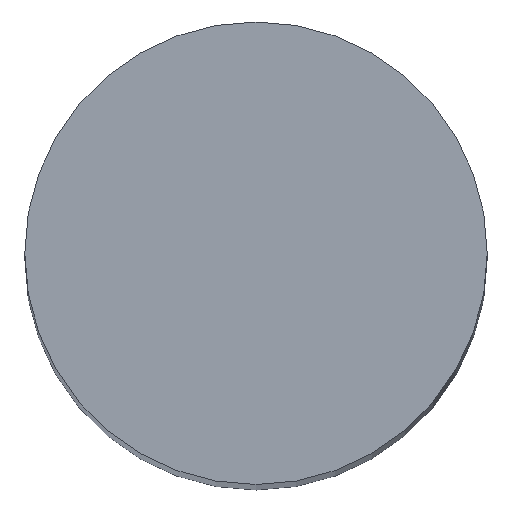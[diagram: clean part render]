
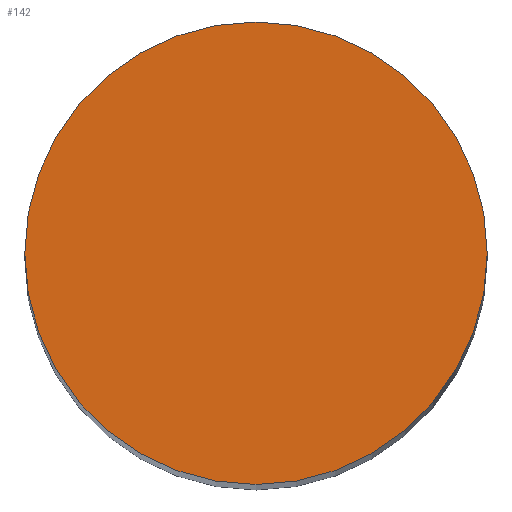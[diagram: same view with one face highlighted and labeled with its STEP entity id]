
A CAD part, top view. The second image highlights one B-rep face of the part: STEP entity #142.
In plain terms, the highlighted planar face has unit normal (0, 0, 1).
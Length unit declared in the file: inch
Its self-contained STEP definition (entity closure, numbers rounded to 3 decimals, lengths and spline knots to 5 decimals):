
#77=CARTESIAN_POINT('',(0.0,-0.19685,2.8346));
#78=VERTEX_POINT('',#77);
#85=CARTESIAN_POINT('',(0.0,0.19685,2.8346));
#86=VERTEX_POINT('',#85);
#87=CARTESIAN_POINT('',(0.0,0.0,2.8346));
#88=DIRECTION('',(0.0,-0.0,-1.0));
#89=DIRECTION('',(0.0,1.0,-0.0));
#90=AXIS2_PLACEMENT_3D('',#87,#88,#89);
#91=CIRCLE('',#90,0.19685);
#92=EDGE_CURVE('no 989',#78,#86,#91,.T.);
#118=CARTESIAN_POINT('',(0.0,0.0,2.8346));
#119=DIRECTION('',(0.0,-0.0,-1.0));
#120=DIRECTION('',(0.0,1.0,-0.0));
#121=AXIS2_PLACEMENT_3D('',#118,#119,#120);
#122=CIRCLE('',#121,0.19685);
#123=EDGE_CURVE('no 993',#86,#78,#122,.T.);
#133=ORIENTED_EDGE('',*,*,#92,.F.);
#134=ORIENTED_EDGE('',*,*,#123,.F.);
#135=EDGE_LOOP('',(#133,#134));
#136=FACE_OUTER_BOUND('',#135,.T.);
#137=CARTESIAN_POINT('',(0.19685,0.0,2.8346));
#138=DIRECTION('',(0.0,0.0,1.0));
#139=DIRECTION('',(0.0,-1.0,0.0));
#140=AXIS2_PLACEMENT_3D('',#137,#138,#139);
#141=PLANE('',#140);
#142=ADVANCED_FACE('no 1060',(#136),#141,.T.);
